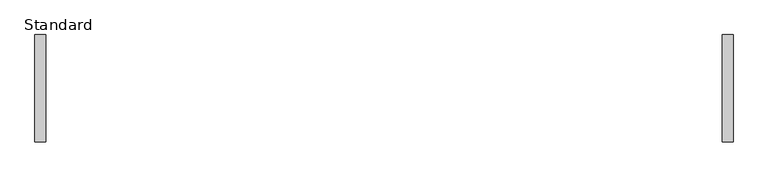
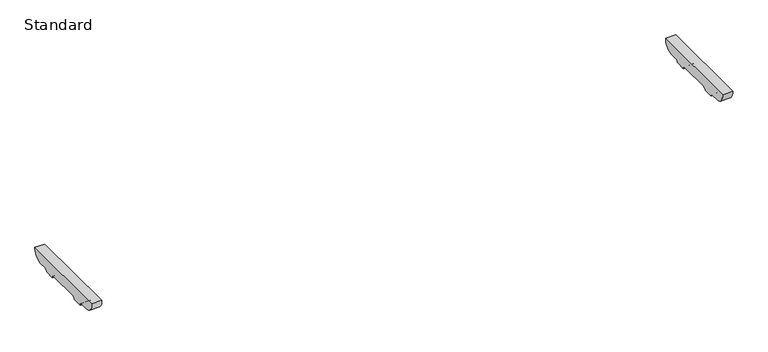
"""IFC4 building model written with IfcOpenShell, lengths in millimetres: furniture geometry, BDG_BossDesign_Tbls_AgentTables4Legs_Nested : Standard."""

from ifc_helpers import new_model, si_unit, point, frame, frame_2d, origin, place, context, project, spatial, polyline, circle_curve, trimmed, segment, composite_curve, outline, extrude, source, transform, mapped, element, save


def standard_3fda8c66(model_context):
    return source(origin(), model_context, "Body", "SweptSolid", [
        extrude(outline(composite_curve([segment(polyline([(180.5450184, 672.0), (142.7000122, 672.0)]), True, "CONTINUOUS"), segment(trimmed(circle_curve(frame_2d((142.7000122, 660.0)), 12.0), [point((142.7000122, 672.0))], [point((130.7000122, 660.0))], True, "CARTESIAN"), True, "CONTINUOUS"), segment(polyline([(130.7000122, 660.0), (85.7000122, 660.0)]), True, "CONTINUOUS"), segment(trimmed(circle_curve(frame_2d((73.7000122, 660.0)), 12.0), [point((85.7000122, 660.0))], [point((73.7000122, 672.0))], True, "CARTESIAN"), True, "CONTINUOUS"), segment(polyline([(73.7000122, 672.0), (-73.7000122, 672.0)]), True, "CONTINUOUS"), segment(trimmed(circle_curve(frame_2d((-73.7000122, 660.0)), 12.0), [point((-73.7000122, 672.0))], [point((-85.7000122, 660.0))], True, "CARTESIAN"), True, "CONTINUOUS"), segment(polyline([(-85.7000122, 660.0), (-130.7000122, 660.0)]), True, "CONTINUOUS"), segment(trimmed(circle_curve(frame_2d((-142.7000122, 660.0)), 12.0), [point((-130.7000122, 660.0))], [point((-142.7000122, 672.0))], True, "CARTESIAN"), True, "CONTINUOUS"), segment(polyline([(-142.7000122, 672.0), (-180.5450184, 672.0)]), True, "CONTINUOUS"), segment(trimmed(circle_curve(frame_2d((-178.2220439, 716.5514119)), 44.6119324), [point((-180.5450184, 672.0))], [point((-222.5, 722.0))], False, "CARTESIAN"), True, "CONTINUOUS"), segment(polyline([(-222.5, 722.0), (222.5, 722.0)]), True, "CONTINUOUS"), segment(trimmed(circle_curve(frame_2d((178.2220439, 716.5514119)), 44.6119324), [point((222.5, 722.0))], [point((180.5450184, 672.0))], False, "CARTESIAN"), True, "CONTINUOUS")], self_intersect=False)), frame((1405.0, 0.0, 0.0), z_axis=(1.0, 0.0, 0.0), x_axis=(0.0, 1.0, 0.0)), (0.0, 0.0, 1.0), 45.0),
        extrude(outline(composite_curve([segment(polyline([(180.5450184, 672.0), (142.7000122, 672.0)]), True, "CONTINUOUS"), segment(trimmed(circle_curve(frame_2d((142.7000122, 660.0)), 12.0), [point((142.7000122, 672.0))], [point((130.7000122, 660.0))], True, "CARTESIAN"), True, "CONTINUOUS"), segment(polyline([(130.7000122, 660.0), (85.7000122, 660.0)]), True, "CONTINUOUS"), segment(trimmed(circle_curve(frame_2d((73.7000122, 660.0)), 12.0), [point((85.7000122, 660.0))], [point((73.7000122, 672.0))], True, "CARTESIAN"), True, "CONTINUOUS"), segment(polyline([(73.7000122, 672.0), (-73.7000122, 672.0)]), True, "CONTINUOUS"), segment(trimmed(circle_curve(frame_2d((-73.7000122, 660.0)), 12.0), [point((-73.7000122, 672.0))], [point((-85.7000122, 660.0))], True, "CARTESIAN"), True, "CONTINUOUS"), segment(polyline([(-85.7000122, 660.0), (-130.7000122, 660.0)]), True, "CONTINUOUS"), segment(trimmed(circle_curve(frame_2d((-142.7000122, 660.0)), 12.0), [point((-130.7000122, 660.0))], [point((-142.7000122, 672.0))], True, "CARTESIAN"), True, "CONTINUOUS"), segment(polyline([(-142.7000122, 672.0), (-180.5450184, 672.0)]), True, "CONTINUOUS"), segment(trimmed(circle_curve(frame_2d((-178.2220439, 716.5514119)), 44.6119324), [point((-180.5450184, 672.0))], [point((-222.5, 722.0))], False, "CARTESIAN"), True, "CONTINUOUS"), segment(polyline([(-222.5, 722.0), (222.5, 722.0)]), True, "CONTINUOUS"), segment(trimmed(circle_curve(frame_2d((178.2220439, 716.5514119)), 44.6119324), [point((222.5, 722.0))], [point((180.5450184, 672.0))], False, "CARTESIAN"), True, "CONTINUOUS")], self_intersect=False)), frame((-1450.0, 0.0, 0.0), z_axis=(1.0, 0.0, 0.0), x_axis=(0.0, 1.0, 0.0)), (0.0, 0.0, 1.0), 45.0),
    ])


if __name__ == "__main__":
    model = new_model("IFC4")
    model_context = context("Model", 3, world=origin())
    ifc_project = project(units=[si_unit("LENGTHUNIT", "METRE", prefix="MILLI")], contexts=[model_context])
    site = spatial("IfcSite", under=ifc_project)
    building = spatial("IfcBuilding", under=site)
    placement = place(None, origin())
    standard_shape = standard_3fda8c66(model_context)
    element("IfcFurniture", 1, ObjectType="BDG_BossDesign_Tbls_AgentTables4Legs_Nested : Standard", at=placement, inside=building, context=model_context, shape_type="MappedRepresentation", body=[
        mapped(standard_shape, transform((0.0, 0.0, 0.0), x_axis=(1.0, 0.0, 0.0), y_axis=(0.0, 1.0, 0.0), z_axis=(0.0, 0.0, 1.0))),
    ])
    save(model, "model.ifc")
